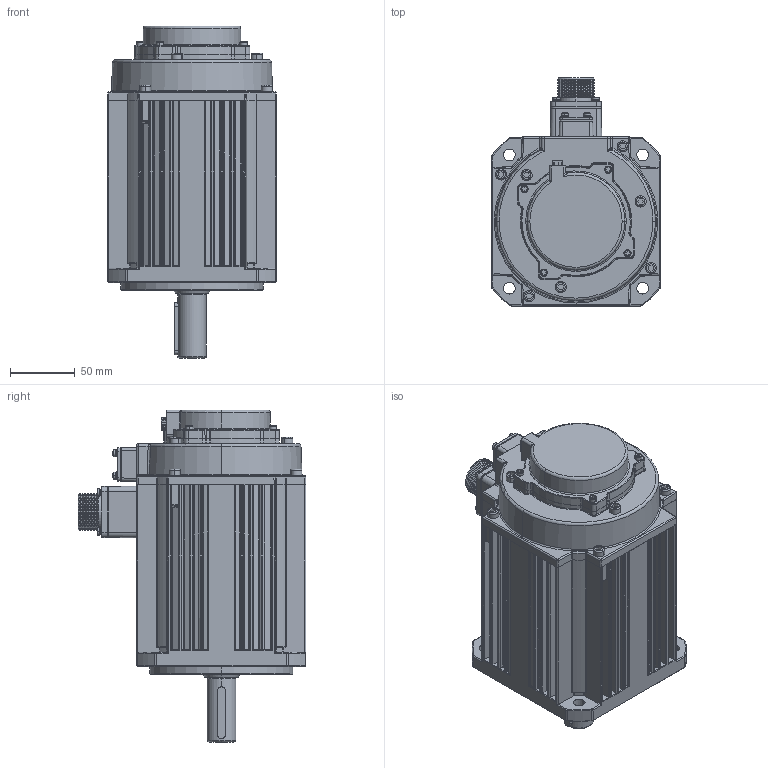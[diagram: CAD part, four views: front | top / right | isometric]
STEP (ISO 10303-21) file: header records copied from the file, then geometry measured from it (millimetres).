
FILE_DESCRIPTION (( 'STEP AP203' ), '1' );
FILE_NAME ('G3系列130伺服-2300W刹车电机三维图-三竹插拔式.STEP', '2023-09-27T08:56:35', ( '微软用户' ), ( '微软中国' ), 'SwSTEP 2.0', 'SolidWorks 2016', '' );
FILE_SCHEMA (( 'CONFIG_CONTROL_DESIGN' ));
Products named in the file (1): G3系列130伺服-2300W刹车电机三维图-三竹插拔式
Bounding box: 130 x 175.3 x 255.5 mm (x, y, z)
Surface area: 350432 mm2 (no closed solid volume)
Topology: 0 solids, 30 shells, 3951 faces, 10090 edges, 6311 vertices
Faces by surface type: plane 1670, cylinder 870, cone 552, bspline 509, torus 275, sphere 75
Entity records: 136210 total; most frequent: CARTESIAN_POINT 43634, ORIENTED_EDGE 19948, DIRECTION 18307, EDGE_CURVE 9988, AXIS2_PLACEMENT_3D 6314, VERTEX_POINT 6299, VECTOR 5679, LINE 5679
